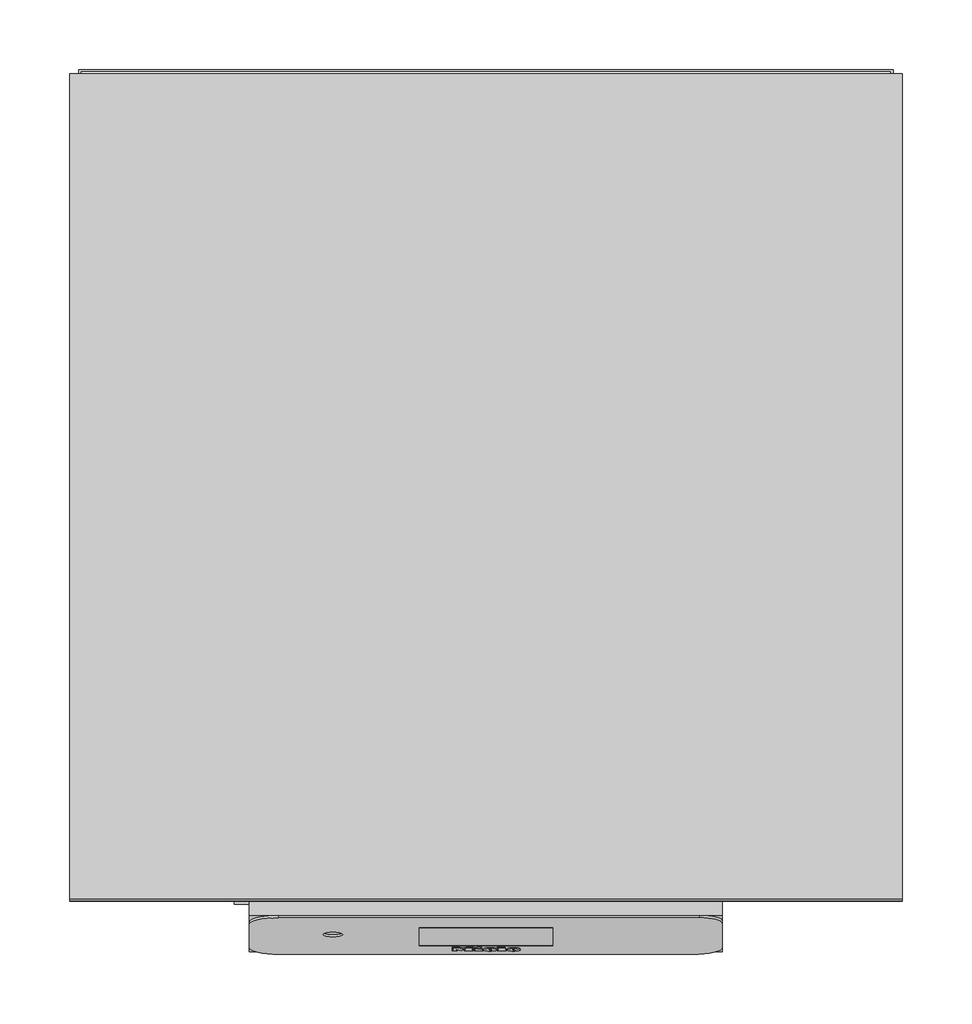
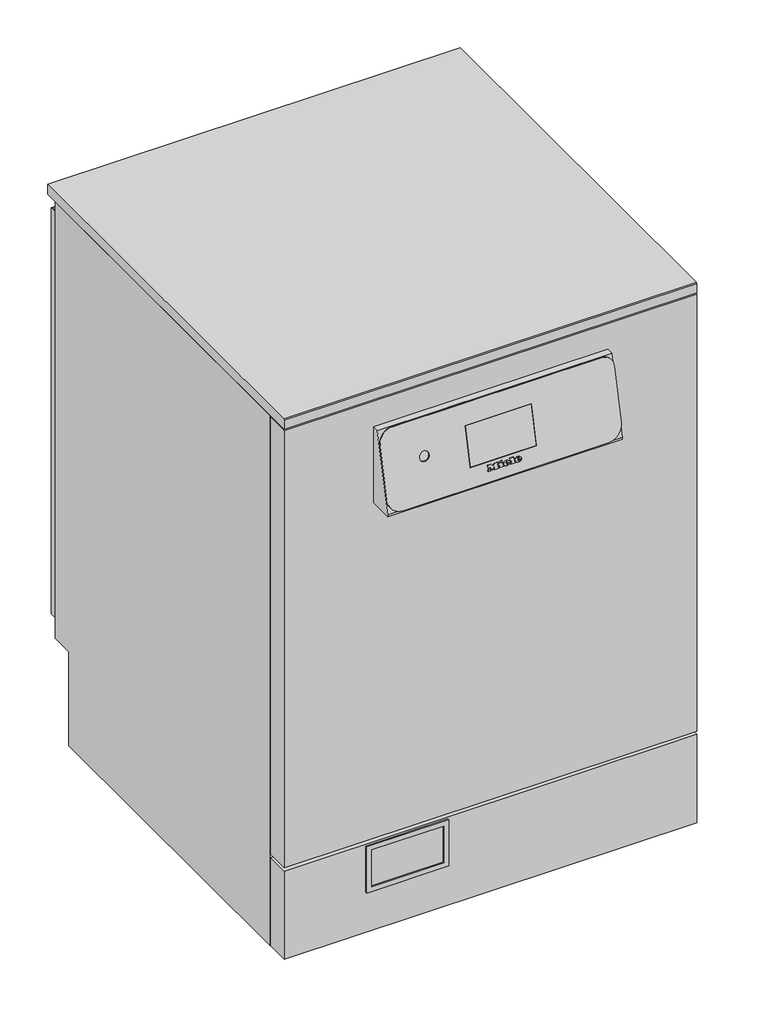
# Not in any storey: 1 proxy.
"""IFC4 building model written with IfcOpenShell, lengths in millimetres."""

from ifc_helpers import new_model, si_unit, origin, place, context, project, spatial, transform, mapped, element, save
from components import specialty_equipment_52fd176c

model = new_model("IFC4")

# Units and contexts
model_context = context("Model", 3, world=origin())
ifc_project = project(units=[si_unit("LENGTHUNIT", "METRE", prefix="MILLI")], contexts=[model_context])

# Site, building
site = spatial("IfcSite", under=ifc_project)
building = spatial("IfcBuilding", under=site)

# Proxy
placement = place(None, origin())
specialty_equipment_shape = specialty_equipment_52fd176c(model_context)
element("IfcBuildingElementProxy", 1, Name="12065160_DAC_PFD402_SST : 61040210_DAC_12065160_PFD402_SST", ObjectType="12065160_DAC_PFD402_SST : 61040210_DAC_12065160_PFD402_SST", at=placement, inside=building, context=model_context, shape_type="MappedRepresentation", body=[
    mapped(specialty_equipment_shape, transform((0.0, 0.0, 0.0), x_axis=(1.0, 0.0, 0.0), y_axis=(0.0, 1.0, 0.0), z_axis=(0.0, 0.0, 1.0))),
])

save(model, "model.ifc")
